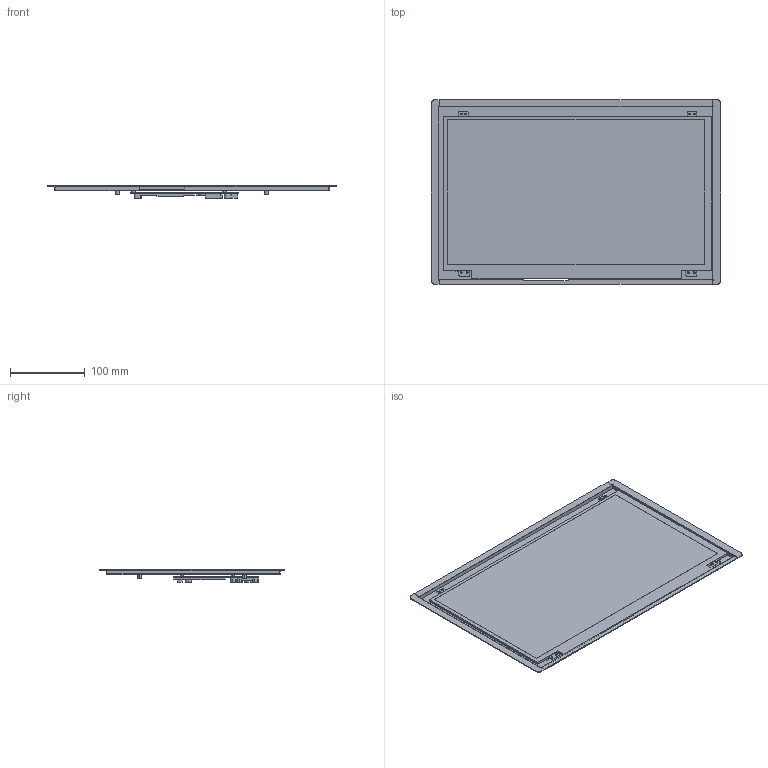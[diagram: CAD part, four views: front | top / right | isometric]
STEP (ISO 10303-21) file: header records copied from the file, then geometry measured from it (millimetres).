
FILE_DESCRIPTION((''),'2;1');
FILE_NAME('3D-DMG19108C156-05WTC','2023-01-13T',('Administrator'),(''),'PRO/ENGINEER BY PARAMETRIC TECHNOLOGY CORPORATION, 2011310','PRO/ENGINEER BY PARAMETRIC TECHNOLOGY CORPORATION, 2011310','');
FILE_SCHEMA(('CONFIG_CONTROL_DESIGN','SHAPE_APPEARANCE_LAYERS_GROUPS'));
Products named in the file (1): 3D-DMG19108C156-05WTC
Bounding box: 388.56 x 248 x 16.6 mm (x, y, z)
Volume: 375804.4 mm3; surface area: 387033.1 mm2
Topology: 2 solids, 2 shells, 302 faces, 25412 edges, 27416 vertices
Faces by surface type: plane 212, cylinder 90
Entity records: 262810 total; most frequent: DIRECTION 35719, PRESENTATION_STYLE_ASSIGNMENT 28047, STYLED_ITEM 28047, CARTESIAN_POINT 26265, CURVE_STYLE 26201, TRIMMED_CURVE 24593, COMPOSITE_CURVE_SEGMENT 22747, VECTOR 15713
